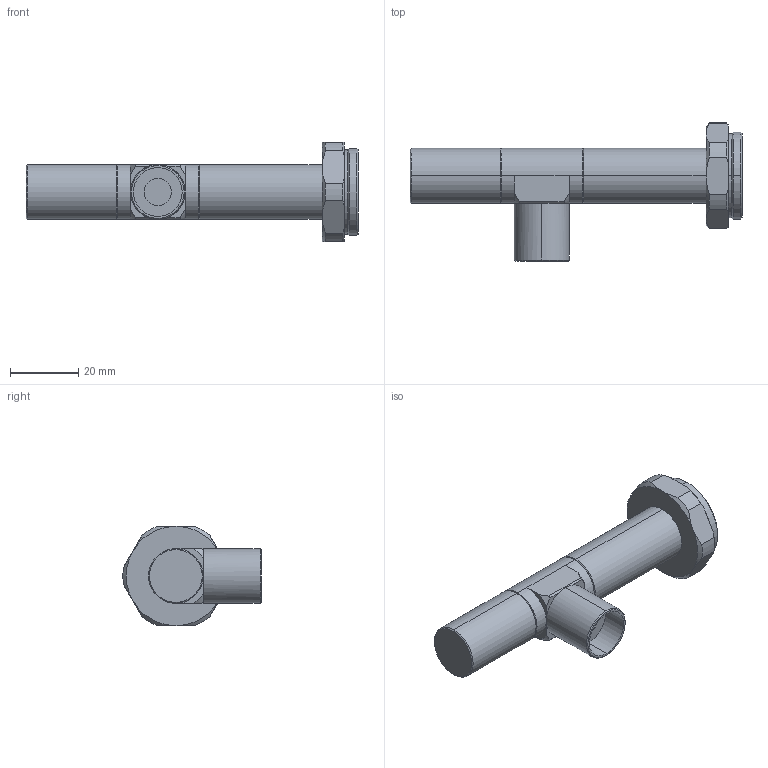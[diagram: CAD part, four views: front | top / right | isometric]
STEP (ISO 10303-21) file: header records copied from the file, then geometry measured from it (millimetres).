
FILE_DESCRIPTION (( 'STEP AP203' ), '1' );
FILE_NAME ('TS-APT2X110D_Drawing_M0257E-A00100.STEP', '2023-01-25T05:16:00', ( '' ), ( '' ), 'SwSTEP 2.0', 'SolidWorks 2021', '' );
FILE_SCHEMA (( 'CONFIG_CONTROL_DESIGN' ));
Length unit declared in the file: millimetre
Products named in the file (1): TS-APT2X110D_Drawing_M0257E-A00100
Bounding box: 96.97 x 40.38 x 29 mm (x, y, z)
Volume: 26120.4 mm3; surface area: 8258.1 mm2
Topology: 1 solids, 1 shells, 82 faces, 192 edges, 116 vertices
Faces by surface type: cone 32, cylinder 25, plane 25
Entity records: 2465 total; most frequent: CARTESIAN_POINT 511, DIRECTION 410, ORIENTED_EDGE 384, EDGE_CURVE 192, AXIS2_PLACEMENT_3D 167, VERTEX_POINT 116, EDGE_LOOP 86, CIRCLE 84
